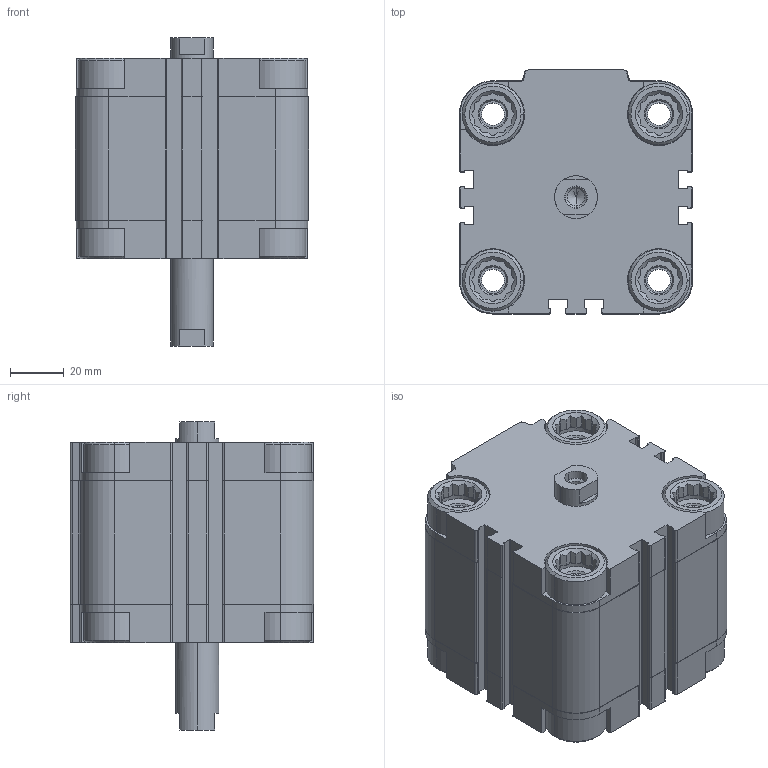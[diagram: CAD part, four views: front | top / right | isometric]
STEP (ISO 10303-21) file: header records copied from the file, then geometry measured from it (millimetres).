
FILE_DESCRIPTION (( 'STEP AP203' ), '1' );
FILE_NAME ('CDVU63-25F-P.STEP', '2020-07-24T18:38:11', ( '' ), ( '' ), 'SwSTEP 2.0', 'SolidWorks 2019', '' );
FILE_SCHEMA (( 'CONFIG_CONTROL_DESIGN' ));
Length unit declared in the file: millimetre
Products named in the file (1): CDVU63-25F-P
Bounding box: 87 x 91 x 115 mm (x, y, z)
Volume: 439607.3 mm3; surface area: 93808.4 mm2
Topology: 2 solids, 2 shells, 622 faces, 1668 edges, 1092 vertices
Faces by surface type: plane 370, cylinder 188, cone 64
Entity records: 19635 total; most frequent: CARTESIAN_POINT 3951, ORIENTED_EDGE 3320, DIRECTION 3170, EDGE_CURVE 1660, VERTEX_POINT 1092, AXIS2_PLACEMENT_3D 1079, LINE 1012, VECTOR 1012
